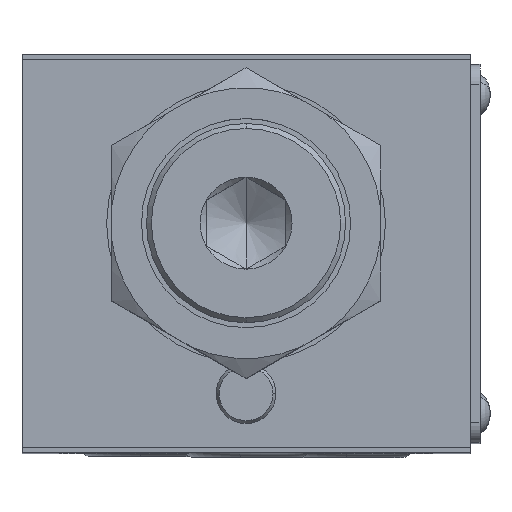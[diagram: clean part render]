
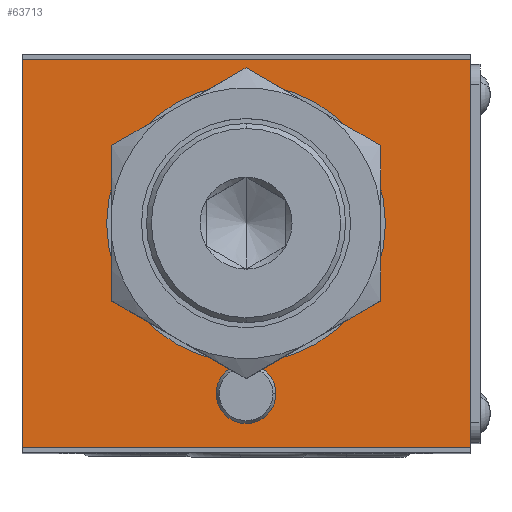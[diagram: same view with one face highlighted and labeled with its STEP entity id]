
A CAD part, top view. The second image highlights one B-rep face of the part: STEP entity #63713.
In plain terms, the highlighted planar face has unit normal (0, 0, 1).
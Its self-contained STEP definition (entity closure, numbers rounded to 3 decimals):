
#225 = DIRECTION ( 'NONE',  ( 1., 0., 0. ) ) ;
#2909 = CARTESIAN_POINT ( 'NONE',  ( 3., -14.1, 46.5 ) ) ;
#3094 = CARTESIAN_POINT ( 'NONE',  ( 14., 3., 46.5 ) ) ;
#4288 = AXIS2_PLACEMENT_3D ( 'NONE', #86311, #40254, #94010 ) ;
#5032 = CARTESIAN_POINT ( 'NONE',  ( -22.5, -20., 46.5 ) ) ;
#5547 = AXIS2_PLACEMENT_3D ( 'NONE', #5032, #20511, #74278 ) ;
#5570 = CARTESIAN_POINT ( 'NONE',  ( -3., -14.1, 46.5 ) ) ;
#7478 = ORIENTED_EDGE ( 'NONE', *, *, #32979, .F. ) ;
#8570 = FACE_BOUND ( 'NONE', #80748, .T. ) ;
#8857 = CARTESIAN_POINT ( 'NONE',  ( 22.5, 19.5, 46.5 ) ) ;
#9175 = VERTEX_POINT ( 'NONE', #2909 ) ;
#11426 = CARTESIAN_POINT ( 'NONE',  ( -22.5, -19.5, 46.5 ) ) ;
#12674 = EDGE_CURVE ( 'NONE', #36290, #50271, #44499, .T. ) ;
#12797 = AXIS2_PLACEMENT_3D ( 'NONE', #29312, #83115, #37071 ) ;
#13740 = VERTEX_POINT ( 'NONE', #3094 ) ;
#13835 = CARTESIAN_POINT ( 'NONE',  ( 22.5, 20., 46.5 ) ) ;
#14869 = ORIENTED_EDGE ( 'NONE', *, *, #28071, .F. ) ;
#16963 = EDGE_CURVE ( 'NONE', #76929, #13740, #74420, .T. ) ;
#20511 = DIRECTION ( 'NONE',  ( 0., 0., 1. ) ) ;
#21120 = EDGE_LOOP ( 'NONE', ( #25714, #88831, #7478, #22772 ) ) ;
#21216 = DIRECTION ( 'NONE',  ( 0., 1., 0. ) ) ;
#22772 = ORIENTED_EDGE ( 'NONE', *, *, #26076, .T. ) ;
#23642 = VECTOR ( 'NONE', #98238, 1000. ) ;
#25714 = ORIENTED_EDGE ( 'NONE', *, *, #42972, .F. ) ;
#26076 = EDGE_CURVE ( 'NONE', #44073, #83058, #44063, .T. ) ;
#26571 = FACE_BOUND ( 'NONE', #94828, .T. ) ;
#28071 = EDGE_CURVE ( 'NONE', #57439, #9175, #65198, .T. ) ;
#28979 = CARTESIAN_POINT ( 'NONE',  ( -22.5, 20., 46.5 ) ) ;
#29312 = CARTESIAN_POINT ( 'NONE',  ( 0., -14.1, 46.5 ) ) ;
#32901 = CARTESIAN_POINT ( 'NONE',  ( 0., 3., 46.5 ) ) ;
#32979 = EDGE_CURVE ( 'NONE', #44073, #50271, #83230, .T. ) ;
#35128 = CARTESIAN_POINT ( 'NONE',  ( 0., 3., 46.5 ) ) ;
#36290 = VERTEX_POINT ( 'NONE', #85342 ) ;
#37071 = DIRECTION ( 'NONE',  ( 1., 0., 0. ) ) ;
#37152 = EDGE_CURVE ( 'NONE', #9175, #57439, #61217, .T. ) ;
#38542 = CARTESIAN_POINT ( 'NONE',  ( -22.5, 19.5, 46.5 ) ) ;
#39933 = EDGE_CURVE ( 'NONE', #13740, #76929, #85794, .T. ) ;
#40254 = DIRECTION ( 'NONE',  ( 0., 0., 1. ) ) ;
#40628 = DIRECTION ( 'NONE',  ( 1., 0., 0. ) ) ;
#42312 = VECTOR ( 'NONE', #225, 1000. ) ;
#42492 = CARTESIAN_POINT ( 'NONE',  ( -22.5, 19.5, 46.5 ) ) ;
#42846 = DIRECTION ( 'NONE',  ( 1., 0., 0. ) ) ;
#42972 = EDGE_CURVE ( 'NONE', #36290, #83058, #52695, .T. ) ;
#43370 = CARTESIAN_POINT ( 'NONE',  ( 22.5, -19.5, 46.5 ) ) ;
#44063 = LINE ( 'NONE', #28979, #23642 ) ;
#44073 = VERTEX_POINT ( 'NONE', #42492 ) ;
#44499 = LINE ( 'NONE', #13835, #85417 ) ;
#50271 = VERTEX_POINT ( 'NONE', #8857 ) ;
#50299 = VECTOR ( 'NONE', #51093, 1000. ) ;
#51093 = DIRECTION ( 'NONE',  ( -1., 0., 0. ) ) ;
#52695 = LINE ( 'NONE', #43370, #50299 ) ;
#56700 = AXIS2_PLACEMENT_3D ( 'NONE', #35128, #88929, #42846 ) ;
#56950 = ORIENTED_EDGE ( 'NONE', *, *, #16963, .F. ) ;
#57439 = VERTEX_POINT ( 'NONE', #5570 ) ;
#60714 = ORIENTED_EDGE ( 'NONE', *, *, #37152, .F. ) ;
#61217 = CIRCLE ( 'NONE', #12797, 3. ) ;
#63300 = CARTESIAN_POINT ( 'NONE',  ( -14., 3., 46.5 ) ) ;
#63713 = ADVANCED_FACE ( 'NONE', ( #87950, #8570, #26571 ), #66479, .T. ) ;
#65198 = CIRCLE ( 'NONE', #4288, 3. ) ;
#66479 = PLANE ( 'NONE',  #5547 ) ;
#74278 = DIRECTION ( 'NONE',  ( 1., 0., 0. ) ) ;
#74420 = CIRCLE ( 'NONE', #81291, 14. ) ;
#76929 = VERTEX_POINT ( 'NONE', #63300 ) ;
#80748 = EDGE_LOOP ( 'NONE', ( #60714, #14869 ) ) ;
#81291 = AXIS2_PLACEMENT_3D ( 'NONE', #32901, #86692, #40628 ) ;
#83058 = VERTEX_POINT ( 'NONE', #11426 ) ;
#83115 = DIRECTION ( 'NONE',  ( 0., 0., 1. ) ) ;
#83230 = LINE ( 'NONE', #38542, #42312 ) ;
#85342 = CARTESIAN_POINT ( 'NONE',  ( 22.5, -19.5, 46.5 ) ) ;
#85417 = VECTOR ( 'NONE', #21216, 1000. ) ;
#85794 = CIRCLE ( 'NONE', #56700, 14. ) ;
#86311 = CARTESIAN_POINT ( 'NONE',  ( 0., -14.1, 46.5 ) ) ;
#86692 = DIRECTION ( 'NONE',  ( 0., 0., 1. ) ) ;
#87950 = FACE_OUTER_BOUND ( 'NONE', #21120, .T. ) ;
#88831 = ORIENTED_EDGE ( 'NONE', *, *, #12674, .T. ) ;
#88929 = DIRECTION ( 'NONE',  ( 0., 0., 1. ) ) ;
#93230 = ORIENTED_EDGE ( 'NONE', *, *, #39933, .F. ) ;
#94010 = DIRECTION ( 'NONE',  ( 1., 0., 0. ) ) ;
#94828 = EDGE_LOOP ( 'NONE', ( #93230, #56950 ) ) ;
#98238 = DIRECTION ( 'NONE',  ( 0., -1., 0. ) ) ;
